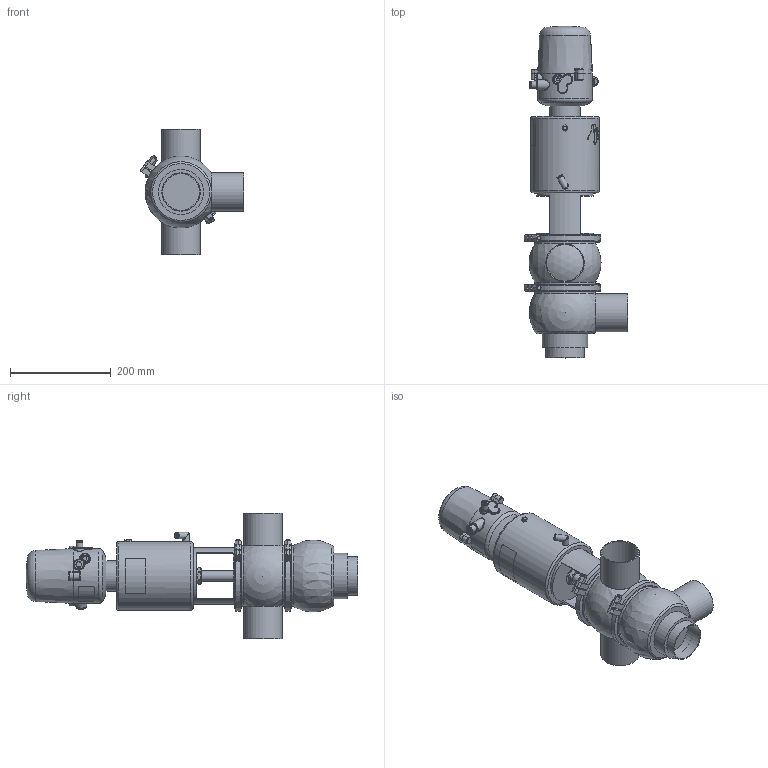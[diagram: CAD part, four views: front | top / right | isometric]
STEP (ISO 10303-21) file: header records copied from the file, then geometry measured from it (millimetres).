
FILE_DESCRIPTION (( 'STEP AP214' ), '1' );
FILE_NAME ('INNOVA K E W OD 3 T3 AS NC & C-TOP S_10.240.16.0076.STEP', '2024-08-06T09:19:14', ( '' ), ( '' ), 'SwSTEP 2.0', 'SolidWorks 2023', '' );
FILE_SCHEMA (( 'AUTOMOTIVE_DESIGN' ));
Length unit declared in the file: millimetre
Products named in the file (8): INNOVA K E W OD 3 T3 AS NC & C-TOP S_10.240.16.0076; 10.240.15.0014_T3 AS P0; 10.240.15.0007_OD 3"; 10.240.15.0010_DN 080; 10.240.15.0001_DN 080; 10.240.15.0002_OD 3"; 10.240.15.0017_Estàndard; 10.426.15.0001_C-TOP S - 1 EV
Assembly tree (8 placements, depth 2):
  INNOVA K E W OD 3 T3 AS NC & C-TOP S_10.240.16.0076
    10.240.15.0007_OD 3"
    10.240.15.0002_OD 3"
    10.240.15.0010_DN 080
    10.240.15.0014_T3 AS P0
    10.240.15.0017_Estàndard
    10.426.15.0001_C-TOP S - 1 EV
    10.240.15.0001_DN 080  x2
Bounding box: 206.43 x 660 x 250 mm (x, y, z)
Volume: 6830843.7 mm3; surface area: 556428 mm2
Topology: 8 solids, 8 shells, 1176 faces, 2839 edges, 1891 vertices
Faces by surface type: plane 411, cylinder 358, cone 201, bspline 160, torus 37, sphere 9
Full cylindrical faces by diameter (mm): 0.371 x17, 0.512 x16, 0.658 x16, 0.795 x16, 0.94 x15, 1.098 x15, 1.241 x13, 1.382 x13, 1.523 x11, 1.669 x10, 2.201 x1, 4 x2, 5.5 x2, 6 x2, 6.15 x1, 8 x6, 8.5 x1, 10 x1, 10.5 x1, 11 x2, 12.5 x3, 13 x2, 13.5 x2, 16 x1, 17 x3, 20 x3, 20.5 x1, 22 x2, 31 x1, 34.5 x3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
Entity records: 58115 total; most frequent: CARTESIAN_POINT 27852, ORIENTED_EDGE 4516, DIRECTION 3663, EDGE_CURVE 2258, VERTEX_POINT 1609, EDGE_LOOP 1579, AXIS2_PLACEMENT_3D 1503, FACE_OUTER_BOUND 1337
